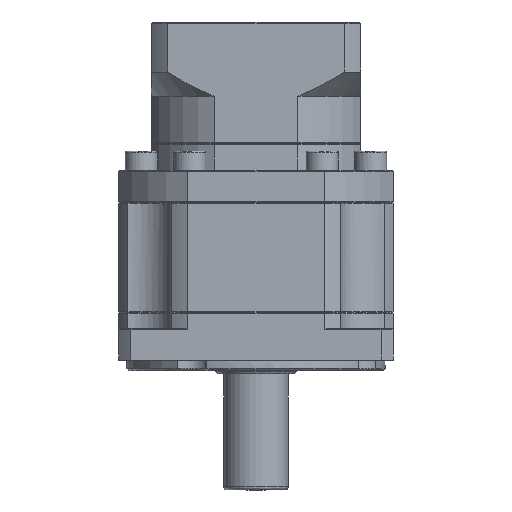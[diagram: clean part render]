
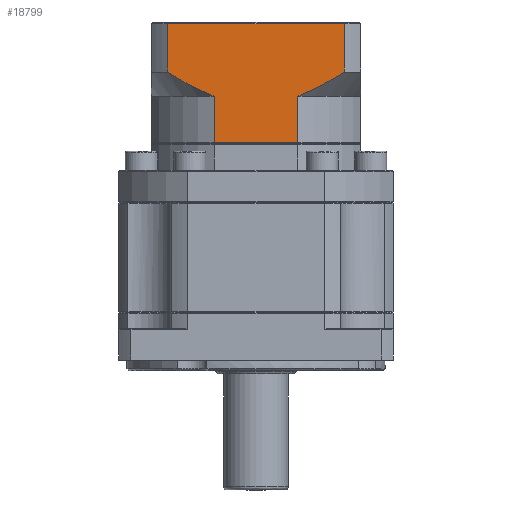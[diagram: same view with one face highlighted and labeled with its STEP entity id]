
A CAD part, front view. The second image highlights one B-rep face of the part: STEP entity #18799.
In plain terms, the highlighted planar face has unit normal (0, -1, 0).
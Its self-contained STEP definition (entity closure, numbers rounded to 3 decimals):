
#946 = VECTOR ( 'NONE', #19062, 1000. ) ;
#3094 = CARTESIAN_POINT ( 'NONE',  ( -75.987, 15.655, -13.079 ) ) ;
#3480 = CARTESIAN_POINT ( 'NONE',  ( -49.363, 15.655, -27.729 ) ) ;
#3800 = DIRECTION ( 'NONE',  ( 0., 0., 1. ) ) ;
#7988 = VECTOR ( 'NONE', #105804, 1000. ) ;
#9610 = CARTESIAN_POINT ( 'NONE',  ( -36.106, 15.655, -6.551 ) ) ;
#10331 = ORIENTED_EDGE ( 'NONE', *, *, #57788, .F. ) ;
#11122 = ORIENTED_EDGE ( 'NONE', *, *, #99191, .F. ) ;
#11730 = EDGE_CURVE ( 'NONE', #111293, #95528, #117551, .T. ) ;
#12932 = CARTESIAN_POINT ( 'NONE',  ( -80.363, 15.655, -11.177 ) ) ;
#13376 = CARTESIAN_POINT ( 'NONE',  ( -75.344, 15.655, -13.318 ) ) ;
#15924 = LINE ( 'NONE', #114586, #94346 ) ;
#18799 = ADVANCED_FACE ( 'NONE', ( #122836 ), #86956, .F. ) ;
#19062 = DIRECTION ( 'NONE',  ( 1., 0., 0. ) ) ;
#19397 = DIRECTION ( 'NONE',  ( 0., 0., -1. ) ) ;
#20084 = VECTOR ( 'NONE', #117439, 1000. ) ;
#21248 = VERTEX_POINT ( 'NONE', #3480 ) ;
#22170 = EDGE_LOOP ( 'NONE', ( #10331, #40428, #83280, #74365, #112494, #84055, #11122, #120219 ) ) ;
#25666 = CARTESIAN_POINT ( 'NONE',  ( -75.344, 15.655, -13.318 ) ) ;
#31711 = CARTESIAN_POINT ( 'NONE',  ( -89.74, 15.655, -5.818 ) ) ;
#31968 = LINE ( 'NONE', #25666, #7988 ) ;
#33059 = CARTESIAN_POINT ( 'NONE',  ( -78.51, 15.655, -12.027 ) ) ;
#38364 = EDGE_CURVE ( 'NONE', #84823, #120193, #70852, .T. ) ;
#38536 = EDGE_CURVE ( 'NONE', #95528, #112800, #38929, .T. ) ;
#38929 = LINE ( 'NONE', #84381, #53179 ) ;
#40428 = ORIENTED_EDGE ( 'NONE', *, *, #105176, .T. ) ;
#41001 = LINE ( 'NONE', #49395, #946 ) ;
#43316 = CARTESIAN_POINT ( 'NONE',  ( -81.575, 15.655, -10.572 ) ) ;
#43757 = EDGE_CURVE ( 'NONE', #70592, #21248, #41001, .T. ) ;
#49395 = CARTESIAN_POINT ( 'NONE',  ( -29.854, 15.655, -27.729 ) ) ;
#50264 = CARTESIAN_POINT ( 'NONE',  ( -46.824, 15.655, -12.375 ) ) ;
#53179 = VECTOR ( 'NONE', #3800, 1000. ) ;
#53542 = CARTESIAN_POINT ( 'NONE',  ( -87.471, 15.655, -7.28 ) ) ;
#55069 = CARTESIAN_POINT ( 'NONE',  ( -29.854, 15.655, 9.682 ) ) ;
#57216 = CARTESIAN_POINT ( 'NONE',  ( -89.74, 15.655, 9.182 ) ) ;
#57788 = EDGE_CURVE ( 'NONE', #62457, #84823, #101439, .T. ) ;
#59699 = CARTESIAN_POINT ( 'NONE',  ( -40.779, 15.655, -9.321 ) ) ;
#62457 = VERTEX_POINT ( 'NONE', #124417 ) ;
#64077 = CARTESIAN_POINT ( 'NONE',  ( -34.967, 15.655, -5.818 ) ) ;
#64499 = VECTOR ( 'NONE', #19397, 1000. ) ;
#70592 = VERTEX_POINT ( 'NONE', #95702 ) ;
#70852 = B_SPLINE_CURVE_WITH_KNOTS ( 'NONE', 3,
 ( #80771, #9610, #131347, #91100, #59699, #120617, #50264, #131785 ),
 .UNSPECIFIED., .F., .F.,
 ( 4, 2, 2, 4 ),
 ( 0.059, 0.063, 0.067, 0.075 ),
 .UNSPECIFIED. ) ;
#74227 = CARTESIAN_POINT ( 'NONE',  ( -76.625, 15.655, -12.827 ) ) ;
#74365 = ORIENTED_EDGE ( 'NONE', *, *, #11730, .F. ) ;
#80257 = CARTESIAN_POINT ( 'NONE',  ( -34.967, 15.655, -8.318 ) ) ;
#80771 = CARTESIAN_POINT ( 'NONE',  ( -34.967, 15.655, -5.818 ) ) ;
#83280 = ORIENTED_EDGE ( 'NONE', *, *, #38536, .F. ) ;
#84055 = ORIENTED_EDGE ( 'NONE', *, *, #43757, .T. ) ;
#84381 = CARTESIAN_POINT ( 'NONE',  ( -89.74, 15.655, -8.318 ) ) ;
#84823 = VERTEX_POINT ( 'NONE', #64077 ) ;
#86956 = PLANE ( 'NONE',  #129298 ) ;
#91100 = CARTESIAN_POINT ( 'NONE',  ( -39.593, 15.655, -8.651 ) ) ;
#94346 = VECTOR ( 'NONE', #124914, 1000. ) ;
#94405 = CARTESIAN_POINT ( 'NONE',  ( -77.886, 15.655, -12.301 ) ) ;
#95300 = CARTESIAN_POINT ( 'NONE',  ( -89.74, 15.655, -5.818 ) ) ;
#95528 = VERTEX_POINT ( 'NONE', #31711 ) ;
#95702 = CARTESIAN_POINT ( 'NONE',  ( -75.344, 15.655, -27.729 ) ) ;
#96812 = DIRECTION ( 'NONE',  ( 0., 1., 0. ) ) ;
#99191 = EDGE_CURVE ( 'NONE', #120193, #21248, #15924, .T. ) ;
#101439 = LINE ( 'NONE', #80257, #64499 ) ;
#104208 = CARTESIAN_POINT ( 'NONE',  ( -49.363, 15.655, -13.318 ) ) ;
#105176 = EDGE_CURVE ( 'NONE', #62457, #112800, #125772, .T. ) ;
#105804 = DIRECTION ( 'NONE',  ( 0., 0., 1. ) ) ;
#108583 = EDGE_CURVE ( 'NONE', #70592, #111293, #31968, .T. ) ;
#111293 = VERTEX_POINT ( 'NONE', #111905 ) ;
#111905 = CARTESIAN_POINT ( 'NONE',  ( -75.344, 15.655, -13.318 ) ) ;
#112494 = ORIENTED_EDGE ( 'NONE', *, *, #108583, .F. ) ;
#112800 = VERTEX_POINT ( 'NONE', #57216 ) ;
#114586 = CARTESIAN_POINT ( 'NONE',  ( -49.363, 15.655, -13.318 ) ) ;
#117439 = DIRECTION ( 'NONE',  ( -1., 0., 0. ) ) ;
#117551 = B_SPLINE_CURVE_WITH_KNOTS ( 'NONE', 3,
 ( #13376, #3094, #74227, #94405, #33059, #12932, #43316, #125284, #53542, #95300 ),
 .UNSPECIFIED., .F., .F.,
 ( 4, 2, 2, 2, 4 ),
 ( 0.101, 0.104, 0.106, 0.11, 0.118 ),
 .UNSPECIFIED. ) ;
#117780 = DIRECTION ( 'NONE',  ( -1., 0., 0. ) ) ;
#120193 = VERTEX_POINT ( 'NONE', #104208 ) ;
#120219 = ORIENTED_EDGE ( 'NONE', *, *, #38364, .F. ) ;
#120617 = CARTESIAN_POINT ( 'NONE',  ( -44.373, 15.655, -11.231 ) ) ;
#122836 = FACE_OUTER_BOUND ( 'NONE', #22170, .T. ) ;
#124417 = CARTESIAN_POINT ( 'NONE',  ( -34.967, 15.655, 9.182 ) ) ;
#124914 = DIRECTION ( 'NONE',  ( 0., 0., -1. ) ) ;
#125284 = CARTESIAN_POINT ( 'NONE',  ( -85.156, 15.655, -8.668 ) ) ;
#125772 = LINE ( 'NONE', #126893, #20084 ) ;
#126893 = CARTESIAN_POINT ( 'NONE',  ( -89.74, 15.655, 9.182 ) ) ;
#129298 = AXIS2_PLACEMENT_3D ( 'NONE', #55069, #96812, #117780 ) ;
#131347 = CARTESIAN_POINT ( 'NONE',  ( -37.257, 15.655, -7.267 ) ) ;
#131785 = CARTESIAN_POINT ( 'NONE',  ( -49.363, 15.655, -13.318 ) ) ;
